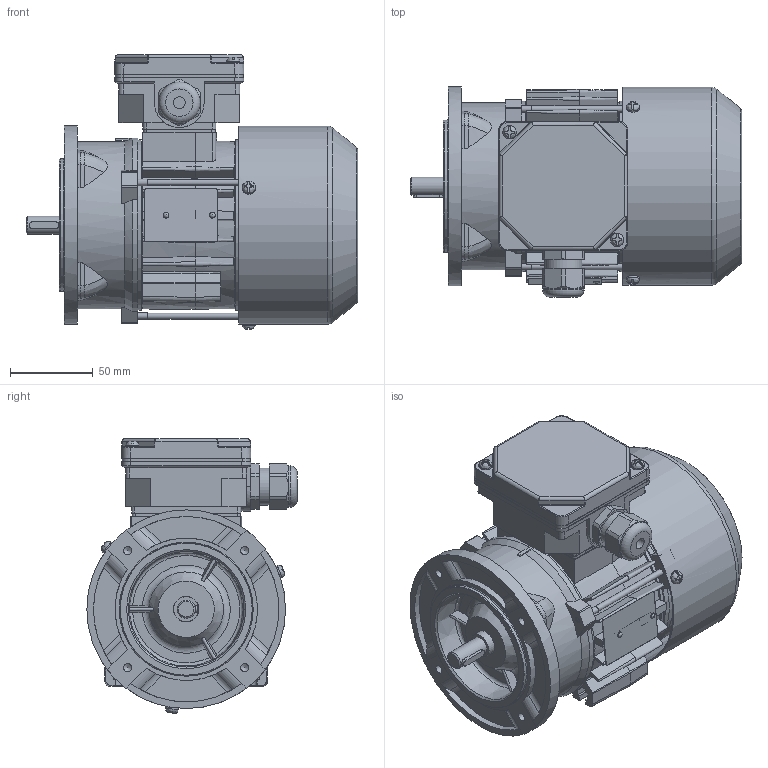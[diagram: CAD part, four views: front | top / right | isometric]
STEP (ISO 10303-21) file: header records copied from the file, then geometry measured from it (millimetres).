
FILE_DESCRIPTION( ( 'Unknown' ), '1' );
FILE_NAME( 'G:/Poczta Tk-1/STP/w.m.63/Sh63/SKh63-A1.stp', 'Unknown', ( 'K. Szlosek' ), ( 'BESEL S.A.' ), 'PSStep 17.0.49', 'Unknown', ' ' );
FILE_SCHEMA( ( 'AUTOMOTIVE_DESIGN { 1 0 10303 214 1 1 1 1 }' ) );
Length unit declared in the file: millimetre
Products named in the file (29): Assem1; K2-0860 Pokrywka skrzynki zaciskowej; K3-9973 Kadłub ze stojanem wykończonym Sh63-B; Wpust A4x4x18; K3-5320 Tarcza łożyskowa P Sg63; Wkręt samogwintujący M4x8; K3-9974 Wał Sh63-B; K2-1769 Przewietrznik Sg63; K4-2320 Uszczelka nr 1 Sh71,80; K4-2820 Uszczelka nr 2 Sh71,80; Wkręt samogwintujący M4x16; Nitokołek A 2x6; K3-11364 osłona przewietrznika Sh63-A; Łożysko 6202; Śruba ściągająca E_M4x80; K2-0859 Podstawa skrzynki 6-cio zaciskowej; Dławnica M20x1,5; Tabliczka znamionowa 32x44; K1-1111 Tarcza kołnierzowa w.m. 63 IMB14_1
Assembly tree (45 placements, depth 2):
  Assem1
    K2-0860 Pokrywka skrzynki zaciskowej
    K3-9973 Kadłub ze stojanem wykończonym Sh63-B
    Wpust A4x4x18
    K3-5320 Tarcza łożyskowa P Sg63
    Wkręt samogwintujący M4x8  x3
    K3-9974 Wał Sh63-B
    K2-1769 Przewietrznik Sg63
    K4-2320 Uszczelka nr 1 Sh71,80
    K4-2820 Uszczelka nr 2 Sh71,80
    Wkręt samogwintujący M4x16  x2
    Nitokołek A 2x6  x2
    K3-11364 osłona przewietrznika Sh63-A
    Łożysko 6202  x2
    Łożysko 6202  x2
    Łożysko 6202  x2
    Łożysko 6202  x2
    Łożysko 6202  x2
    Łożysko 6202  x2
    Łożysko 6202  x2
    Łożysko 6202  x2
    Łożysko 6202  x2
    Łożysko 6202  x2
    Łożysko 6202  x2
    Śruba ściągająca E_M4x80  x3
    K2-0859 Podstawa skrzynki 6-cio zaciskowej
    Dławnica M20x1,5
    Tabliczka znamionowa 32x44
    K1-1111 Tarcza kołnierzowa w.m. 63 IMB14_1
Bounding box: 200.3 x 127 x 165.9 mm (x, y, z)
Volume: 501690.9 mm3; surface area: 342031.2 mm2
Topology: 45 solids, 63 shells, 1904 faces, 5231 edges, 3390 vertices
Faces by surface type: plane 933, cylinder 555, cone 130, torus 126, bspline 121, sphere 39
Full cylindrical faces by diameter (mm): 2 x2, 2.4 x2, 3.3 x3, 3.7 x10, 4 x8, 4.5 x4, 4.8 x4, 5 x8, 7 x4, 8 x6, 11 x1, 12.9 x1, 13.1 x1, 13.5 x1, 15 x4, 15.4 x2, 18.376 x1, 18.38 x1, 19 x2, 19.5 x1, 20 x2, 20.1 x1, 21.52 x4, 22.3 x1, 25 x1, 28 x2, 28.48 x4, 31 x2, 35 x4, 72 x1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
Entity records: 83480 total; most frequent: CARTESIAN_POINT 26216, ORIENTED_EDGE 9016, DIRECTION 8592, EDGE_CURVE 4508, AXIS2_PLACEMENT_3D 3200, VERTEX_POINT 3065, LINE 2192, VECTOR 2192
